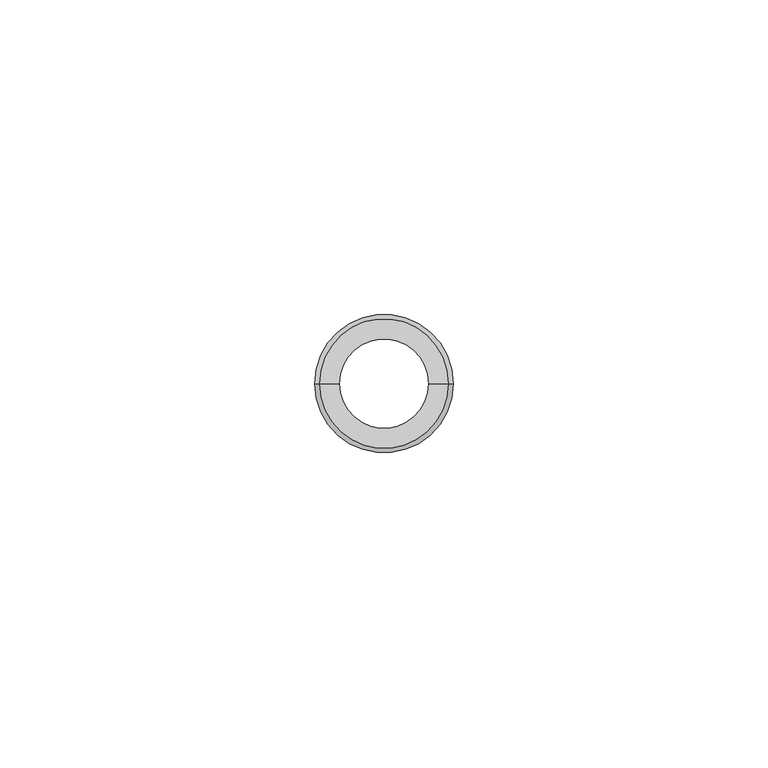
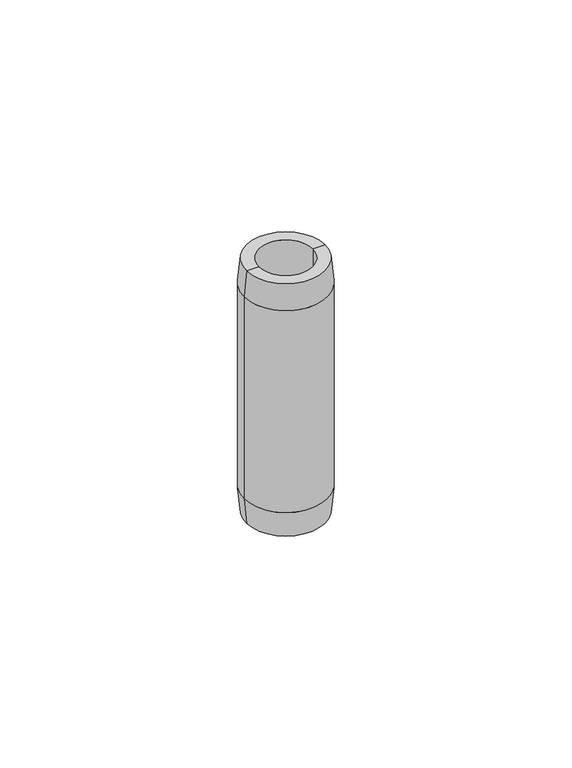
"""IFC4 building model written with IfcOpenShell, lengths in millimetres: proxy geometry, КНС_МуфтаСоединительная_DKC : NE1306_Латунь_D14.2."""

from ifc_helpers import new_model, si_unit, frame, origin, place, context, project, spatial, polyline, circle_curve, source, transform, mapped, element, save
from ifc_brep_helpers import plane_surface, cylinder_surface, revolved_surface, advanced_brep


def security_devices_01c4e3ec(model_context):
    return source(origin(), model_context, "Body", "AdvancedBrep", [
        advanced_brep(
        [(-10.3, 0.0, -35.0), (10.3, 0.0, -35.0), (7.1, 0.0, -35.0), (-7.1, 0.0, -35.0), (-11.0, 0.0, -28.0), (11.0, 0.0, -28.0), (-11.0, 0.0, 28.0), (11.0, 0.0, 28.0), (-10.3, 0.0, 35.0), (10.3, 0.0, 35.0), (-7.1, 0.0, 35.0), (7.1, 0.0, 35.0)],
        [
            (0, 1, circle_curve(frame((0.0, 0.0, -35.0), z_axis=(0.0, 0.0, -1.0), x_axis=(1.0, 0.0, 0.0)), 10.3)),
            (1, 2),
            (2, 3, circle_curve(frame((0.0, 0.0, -35.0), z_axis=(0.0, 0.0, 1.0), x_axis=(1.0, 0.0, 0.0)), 7.1)),
            (3, 0),
            (1, 0, circle_curve(frame((0.0, 0.0, -35.0), z_axis=(0.0, 0.0, -1.0), x_axis=(1.0, 0.0, 0.0)), 10.3)),
            (3, 2, circle_curve(frame((0.0, 0.0, -35.0), z_axis=(0.0, 0.0, 1.0), x_axis=(1.0, 0.0, 0.0)), 7.1)),
            (4, 5, circle_curve(frame((0.0, 0.0, -28.0), z_axis=(0.0, 0.0, -1.0), x_axis=(1.0, 0.0, 0.0)), 11.0)),
            (5, 1),
            (0, 4),
            (5, 4, circle_curve(frame((0.0, 0.0, -28.0), z_axis=(0.0, 0.0, -1.0), x_axis=(1.0, 0.0, 0.0)), 11.0)),
            (6, 7, circle_curve(frame((0.0, 0.0, 28.0), z_axis=(0.0, 0.0, -1.0), x_axis=(1.0, 0.0, 0.0)), 11.0)),
            (7, 5),
            (4, 6),
            (7, 6, circle_curve(frame((0.0, 0.0, 28.0), z_axis=(0.0, 0.0, -1.0), x_axis=(1.0, 0.0, 0.0)), 11.0)),
            (8, 9, circle_curve(frame((0.0, 0.0, 35.0), z_axis=(0.0, 0.0, -1.0), x_axis=(1.0, 0.0, 0.0)), 10.3)),
            (9, 7),
            (6, 8),
            (9, 8, circle_curve(frame((0.0, 0.0, 35.0), z_axis=(0.0, 0.0, -1.0), x_axis=(1.0, 0.0, 0.0)), 10.3)),
            (10, 11, circle_curve(frame((0.0, 0.0, 35.0), z_axis=(0.0, 0.0, -1.0), x_axis=(1.0, 0.0, 0.0)), 7.1)),
            (11, 9),
            (8, 10),
            (11, 10, circle_curve(frame((0.0, 0.0, 35.0), z_axis=(0.0, 0.0, -1.0), x_axis=(1.0, 0.0, 0.0)), 7.1)),
            (2, 11),
            (10, 3),
        ],
        [
            plane_surface(frame((0.0, 0.0, -35.0), z_axis=(0.0, 0.0, -1.0), x_axis=(1.0, 0.0, 0.0))),
            revolved_surface(polyline([(10.3, 0.0, -35.0), (11.0, 0.0, -28.0)]), (0.0, 0.0, 10.0), (0.0, 0.0, 1.0)),
            cylinder_surface(frame((0.0, 0.0, 10.0), z_axis=(0.0, 0.0, 1.0), x_axis=(1.0, 0.0, 0.0)), 11.0),
            revolved_surface(polyline([(11.0, 0.0, 28.0), (10.3, 0.0, 35.0)]), (0.0, 0.0, 10.0), (0.0, 0.0, 1.0)),
            plane_surface(frame((0.0, 0.0, 35.0), z_axis=(0.0, 0.0, 1.0), x_axis=(1.0, 0.0, 0.0))),
            revolved_surface(polyline([(7.1, 0.0, 35.0), (7.1, 0.0, -35.0)]), (0.0, 0.0, 10.0), (0.0, 0.0, 1.0)),
        ],
        [
            (0, [[1, 2, 3, 4]]),
            (0, [[5, -4, 6, -2]]),
            (1, [[7, 8, -1, 9]]),
            (1, [[10, -9, -5, -8]]),
            (2, [[11, 12, -7, 13]]),
            (2, [[14, -13, -10, -12]]),
            (3, [[15, 16, -11, 17]]),
            (3, [[18, -17, -14, -16]]),
            (4, [[19, 20, -15, 21]]),
            (4, [[22, -21, -18, -20]]),
            (5, [[-3, 23, -19, 24]]),
            (5, [[-6, -24, -22, -23]]),
        ],
    ),
    ])


if __name__ == "__main__":
    model = new_model("IFC4")
    model_context = context("Model", 3, world=origin())
    ifc_project = project(units=[si_unit("LENGTHUNIT", "METRE", prefix="MILLI")], contexts=[model_context])
    site = spatial("IfcSite", under=ifc_project)
    building = spatial("IfcBuilding", under=site)
    placement = place(None, origin())
    security_devices_shape = security_devices_01c4e3ec(model_context)
    element("IfcBuildingElementProxy", 1, Name="КНС_МуфтаСоединительная_DKC : NE1306_Латунь_D14.2", ObjectType="КНС_МуфтаСоединительная_DKC : NE1306_Латунь_D14.2", at=placement, inside=building, context=model_context, shape_type="MappedRepresentation", body=[
        mapped(security_devices_shape, transform((0.0, 0.0, 0.0), x_axis=(1.0, 0.0, 0.0), y_axis=(0.0, 1.0, 0.0), z_axis=(0.0, 0.0, 1.0))),
    ])
    save(model, "model.ifc")
